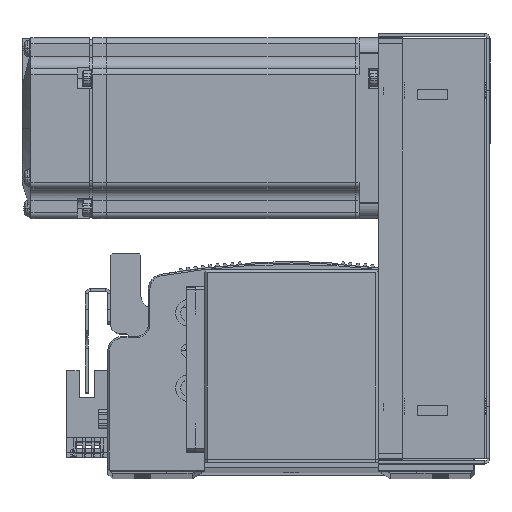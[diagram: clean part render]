
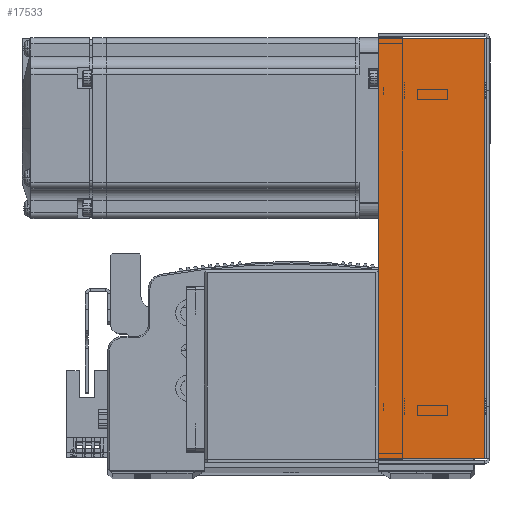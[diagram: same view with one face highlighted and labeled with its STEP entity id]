
A CAD part, top view. The second image highlights one B-rep face of the part: STEP entity #17533.
In plain terms, the highlighted planar face has unit normal (0, 0, 1) as drawn and (0, 0, -1) by its records, which use the part's own axes.
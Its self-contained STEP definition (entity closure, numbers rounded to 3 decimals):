
#284 = VERTEX_POINT ( 'NONE', #67623 ) ;
#299 = VERTEX_POINT ( 'NONE', #67716 ) ;
#346 = VERTEX_POINT ( 'NONE', #67662 ) ;
#353 = VERTEX_POINT ( 'NONE', #67664 ) ;
#8771 = EDGE_CURVE ( 'NONE', #284, #353, #45053, .T. ) ;
#8809 = EDGE_CURVE ( 'NONE', #346, #353, #45133, .T. ) ;
#8841 = EDGE_CURVE ( 'NONE', #299, #346, #44441, .T. ) ;
#9022 = EDGE_CURVE ( 'NONE', #299, #284, #42899, .T. ) ;
#11225 = ORIENTED_EDGE ( 'NONE', *, *, #8841, .F. ) ;
#17533 = ADVANCED_FACE ( 'NONE', ( #38694 ), #70350, .F. ) ;
#38694 = FACE_OUTER_BOUND ( 'NONE', #92049, .T. ) ;
#42899 = LINE ( 'NONE', #78225, #42939 ) ;
#42939 = VECTOR ( 'NONE', #78250, 1000. ) ;
#44441 = LINE ( 'NONE', #89022, #44665 ) ;
#44665 = VECTOR ( 'NONE', #89062, 1000. ) ;
#45053 = LINE ( 'NONE', #88933, #45062 ) ;
#45062 = VECTOR ( 'NONE', #88943, 1000. ) ;
#45133 = LINE ( 'NONE', #89014, #45146 ) ;
#45146 = VECTOR ( 'NONE', #88997, 1000. ) ;
#49632 = AXIS2_PLACEMENT_3D ( 'NONE', #70339, #70362, #70342 ) ;
#67623 = CARTESIAN_POINT ( 'NONE',  ( -69.793, 36., -33.5 ) ) ;
#67662 = CARTESIAN_POINT ( 'NONE',  ( 69.793, 0.737, -33.5 ) ) ;
#67664 = CARTESIAN_POINT ( 'NONE',  ( 69.793, 36., -33.5 ) ) ;
#67716 = CARTESIAN_POINT ( 'NONE',  ( -69.793, 0.737, -33.5 ) ) ;
#70339 = CARTESIAN_POINT ( 'NONE',  ( 0., 0., -33.5 ) ) ;
#70342 = DIRECTION ( 'NONE',  ( 0., -1., 0. ) ) ;
#70350 = PLANE ( 'NONE',  #49632 ) ;
#70362 = DIRECTION ( 'NONE',  ( 0., 0., 1. ) ) ;
#78225 = CARTESIAN_POINT ( 'NONE',  ( -69.793, 0., -33.5 ) ) ;
#78250 = DIRECTION ( 'NONE',  ( 0., 1., 0. ) ) ;
#87373 = ORIENTED_EDGE ( 'NONE', *, *, #8809, .F. ) ;
#87377 = ORIENTED_EDGE ( 'NONE', *, *, #8771, .T. ) ;
#87379 = ORIENTED_EDGE ( 'NONE', *, *, #9022, .T. ) ;
#88933 = CARTESIAN_POINT ( 'NONE',  ( 0., 36., -33.5 ) ) ;
#88943 = DIRECTION ( 'NONE',  ( 1., 0., 0. ) ) ;
#88997 = DIRECTION ( 'NONE',  ( 0., 1., 0. ) ) ;
#89014 = CARTESIAN_POINT ( 'NONE',  ( 69.793, 0., -33.5 ) ) ;
#89022 = CARTESIAN_POINT ( 'NONE',  ( 71.5, 0.737, -33.5 ) ) ;
#89062 = DIRECTION ( 'NONE',  ( 1., 0., 0. ) ) ;
#92049 = EDGE_LOOP ( 'NONE', ( #11225, #87379, #87377, #87373 ) ) ;
